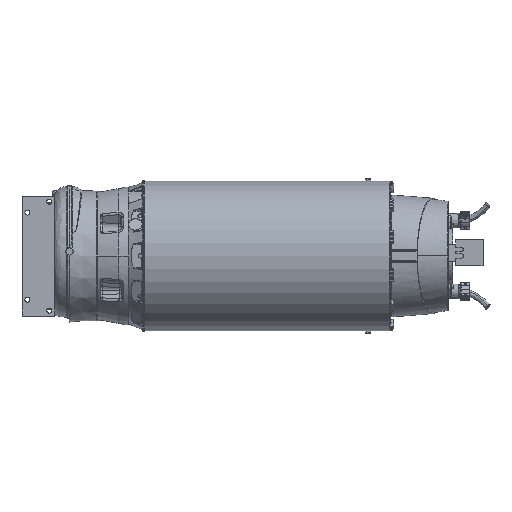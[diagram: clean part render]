
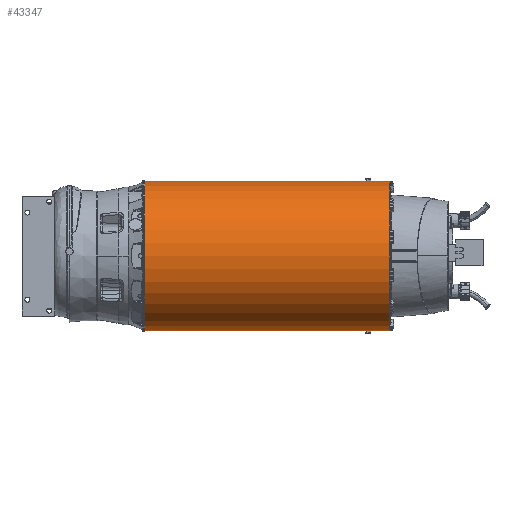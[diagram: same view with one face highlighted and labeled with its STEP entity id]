
A CAD part, front view. The second image highlights one B-rep face of the part: STEP entity #43347.
In plain terms, the highlighted cylindrical face has radius 344 mm (diameter 688 mm), a partial arc.
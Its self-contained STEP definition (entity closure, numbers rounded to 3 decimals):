
#2538 = LINE ( 'NONE', #114402, #78367 ) ;
#2949 = CARTESIAN_POINT ( 'NONE',  ( 994.03, 0., 344. ) ) ;
#3687 = CARTESIAN_POINT ( 'NONE',  ( 1015.97, 0., 344. ) ) ;
#4486 = EDGE_CURVE ( 'NONE', #201967, #83995, #199263, .T. ) ;
#6627 = EDGE_CURVE ( 'NONE', #49588, #184138, #182327, .T. ) ;
#9585 = CARTESIAN_POINT ( 'NONE',  ( 1012.313, -6.334, -343.956 ) ) ;
#10669 = CARTESIAN_POINT ( 'NONE',  ( 1105., 0., 344. ) ) ;
#14273 = VERTEX_POINT ( 'NONE', #173558 ) ;
#14368 = CARTESIAN_POINT ( 'NONE',  ( 1014.141, -3.167, 344. ) ) ;
#15679 = DIRECTION ( 'NONE',  ( 0., 0., -1. ) ) ;
#15725 = VECTOR ( 'NONE', #160340, 1000. ) ;
#23230 = CARTESIAN_POINT ( 'NONE',  ( 1010.485, -9.5, 343.869 ) ) ;
#25013 = CARTESIAN_POINT ( 'NONE',  ( 994.03, 0., 344. ) ) ;
#26034 = DIRECTION ( 'NONE',  ( 1., 0., 0. ) ) ;
#26634 = CARTESIAN_POINT ( 'NONE',  ( 1105., 0., 0. ) ) ;
#32728 = DIRECTION ( 'NONE',  ( -1., 0., 0. ) ) ;
#39420 = ORIENTED_EDGE ( 'NONE', *, *, #176073, .F. ) ;
#42896 = DIRECTION ( 'NONE',  ( 0., 0., -1. ) ) ;
#43347 = ADVANCED_FACE ( 'NONE', ( #66203 ), #45318, .T. ) ;
#45318 = CYLINDRICAL_SURFACE ( 'NONE', #73080, 344. ) ;
#45573 = CARTESIAN_POINT ( 'NONE',  ( 994.03, 0., -344. ) ) ;
#46657 = ORIENTED_EDGE ( 'NONE', *, *, #104401, .F. ) ;
#47456 = DIRECTION ( 'NONE',  ( 1., 0., 0. ) ) ;
#49588 = VERTEX_POINT ( 'NONE', #51756 ) ;
#51756 = CARTESIAN_POINT ( 'NONE',  ( 1010.485, -9.5, -343.869 ) ) ;
#56660 = ORIENTED_EDGE ( 'NONE', *, *, #58905, .F. ) ;
#58764 = VERTEX_POINT ( 'NONE', #150011 ) ;
#58905 = EDGE_CURVE ( 'NONE', #72088, #186518, #199481, .T. ) ;
#61069 = CARTESIAN_POINT ( 'NONE',  ( 999.515, -9.5, -343.869 ) ) ;
#61557 = VECTOR ( 'NONE', #32728, 1000. ) ;
#64021 = CARTESIAN_POINT ( 'NONE',  ( 1245.349, 0., -344. ) ) ;
#64242 = VECTOR ( 'NONE', #151528, 1000. ) ;
#65466 = CARTESIAN_POINT ( 'NONE',  ( 999.515, -9.5, 343.869 ) ) ;
#66203 = FACE_OUTER_BOUND ( 'NONE', #142765, .T. ) ;
#69552 = VERTEX_POINT ( 'NONE', #23230 ) ;
#69847 = DIRECTION ( 'NONE',  ( 0., -1., 0. ) ) ;
#70103 = DIRECTION ( 'NONE',  ( 1., 0., 0. ) ) ;
#70255 = CARTESIAN_POINT ( 'NONE',  ( -20., 0., 0. ) ) ;
#70582 = VERTEX_POINT ( 'NONE', #2949 ) ;
#72088 = VERTEX_POINT ( 'NONE', #3687 ) ;
#73080 = AXIS2_PLACEMENT_3D ( 'NONE', #110312, #47456, #15679 ) ;
#73372 = DIRECTION ( 'NONE',  ( -1., 0., 0. ) ) ;
#73863 = CARTESIAN_POINT ( 'NONE',  ( 1014.141, -3.167, -344. ) ) ;
#78367 = VECTOR ( 'NONE', #130627, 1000. ) ;
#78545 = VERTEX_POINT ( 'NONE', #65466 ) ;
#79345 = CARTESIAN_POINT ( 'NONE',  ( 1012.313, -6.334, 343.956 ) ) ;
#81500 = EDGE_CURVE ( 'NONE', #14273, #58764, #181838, .T. ) ;
#83995 = VERTEX_POINT ( 'NONE', #97873 ) ;
#84037 = AXIS2_PLACEMENT_3D ( 'NONE', #26634, #139425, #42896 ) ;
#96436 = ORIENTED_EDGE ( 'NONE', *, *, #170434, .T. ) ;
#97263 = EDGE_CURVE ( 'NONE', #184138, #161418, #137099, .T. ) ;
#97873 = CARTESIAN_POINT ( 'NONE',  ( -20., 0., -344. ) ) ;
#104401 = EDGE_CURVE ( 'NONE', #14273, #49588, #137562, .T. ) ;
#108432 = EDGE_CURVE ( 'NONE', #83995, #161418, #154816, .T. ) ;
#110312 = CARTESIAN_POINT ( 'NONE',  ( 1245.349, 0., 0. ) ) ;
#114402 = CARTESIAN_POINT ( 'NONE',  ( 1245.349, 0., 344. ) ) ;
#116700 = ORIENTED_EDGE ( 'NONE', *, *, #108432, .T. ) ;
#116706 = CARTESIAN_POINT ( 'NONE',  ( 1245.349, -9.5, -343.869 ) ) ;
#119794 = EDGE_CURVE ( 'NONE', #78545, #70582, #163059, .T. ) ;
#120950 = ORIENTED_EDGE ( 'NONE', *, *, #6627, .F. ) ;
#121715 = CARTESIAN_POINT ( 'NONE',  ( 995.859, -3.167, 344. ) ) ;
#121918 = EDGE_CURVE ( 'NONE', #69552, #78545, #184721, .T. ) ;
#122521 = CARTESIAN_POINT ( 'NONE',  ( 1010.485, -9.5, -343.869 ) ) ;
#127323 = CARTESIAN_POINT ( 'NONE',  ( 1015.97, 0., 344. ) ) ;
#130627 = DIRECTION ( 'NONE',  ( 1., 0., 0. ) ) ;
#130849 = AXIS2_PLACEMENT_3D ( 'NONE', #70255, #70103, #69847 ) ;
#131689 = CARTESIAN_POINT ( 'NONE',  ( -20., 0., 344. ) ) ;
#135601 = CARTESIAN_POINT ( 'NONE',  ( 1245.349, 0., -344. ) ) ;
#137099 =( BOUNDED_CURVE ( )  B_SPLINE_CURVE ( 3, ( #61069, #203032, #142024, #45573 ),
 .UNSPECIFIED., .F., .T. ) 
 B_SPLINE_CURVE_WITH_KNOTS ( ( 4, 4 ),
 ( 1.543, 1.571 ),
 .UNSPECIFIED. ) 
 CURVE ( )  GEOMETRIC_REPRESENTATION_ITEM ( )  RATIONAL_B_SPLINE_CURVE ( ( 1., 1., 1., 1. ) ) 
 REPRESENTATION_ITEM ( '' )  );
#137562 =( BOUNDED_CURVE ( )  B_SPLINE_CURVE ( 3, ( #186141, #73863, #9585, #122521 ),
 .UNSPECIFIED., .F., .T. ) 
 B_SPLINE_CURVE_WITH_KNOTS ( ( 4, 4 ),
 ( 1.571, 1.598 ),
 .UNSPECIFIED. ) 
 CURVE ( )  GEOMETRIC_REPRESENTATION_ITEM ( )  RATIONAL_B_SPLINE_CURVE ( ( 1., 1., 1., 1. ) ) 
 REPRESENTATION_ITEM ( '' )  );
#139425 = DIRECTION ( 'NONE',  ( 1., 0., 0. ) ) ;
#142024 = CARTESIAN_POINT ( 'NONE',  ( 995.859, -3.167, -344. ) ) ;
#142674 = ORIENTED_EDGE ( 'NONE', *, *, #97263, .F. ) ;
#142765 = EDGE_LOOP ( 'NONE', ( #39420, #188609, #116700, #142674, #120950, #46657, #184044, #188087, #56660, #96436, #148128, #194625 ) ) ;
#148128 = ORIENTED_EDGE ( 'NONE', *, *, #121918, .T. ) ;
#150011 = CARTESIAN_POINT ( 'NONE',  ( 1105., 0., -344. ) ) ;
#151528 = DIRECTION ( 'NONE',  ( 1., 0., 0. ) ) ;
#154816 = LINE ( 'NONE', #135601, #64242 ) ;
#160340 = DIRECTION ( 'NONE',  ( 1., 0., 0. ) ) ;
#161418 = VERTEX_POINT ( 'NONE', #186835 ) ;
#162540 = CARTESIAN_POINT ( 'NONE',  ( 999.515, -9.5, -343.869 ) ) ;
#163059 =( BOUNDED_CURVE ( )  B_SPLINE_CURVE ( 3, ( #185320, #169189, #121715, #25013 ),
 .UNSPECIFIED., .F., .T. ) 
 B_SPLINE_CURVE_WITH_KNOTS ( ( 4, 4 ),
 ( 1.543, 1.571 ),
 .UNSPECIFIED. ) 
 CURVE ( )  GEOMETRIC_REPRESENTATION_ITEM ( )  RATIONAL_B_SPLINE_CURVE ( ( 1., 1., 1., 1. ) ) 
 REPRESENTATION_ITEM ( '' )  );
#165745 = EDGE_CURVE ( 'NONE', #186518, #58764, #179976, .T. ) ;
#169189 = CARTESIAN_POINT ( 'NONE',  ( 997.687, -6.334, 343.956 ) ) ;
#169565 =( BOUNDED_CURVE ( )  B_SPLINE_CURVE ( 3, ( #127323, #14368, #79345, #191550 ),
 .UNSPECIFIED., .F., .F. ) 
 B_SPLINE_CURVE_WITH_KNOTS ( ( 4, 4 ),
 ( 1.571, 1.598 ),
 .UNSPECIFIED. ) 
 CURVE ( )  GEOMETRIC_REPRESENTATION_ITEM ( )  RATIONAL_B_SPLINE_CURVE ( ( 1., 1., 1., 1. ) ) 
 REPRESENTATION_ITEM ( '' )  );
#170434 = EDGE_CURVE ( 'NONE', #72088, #69552, #169565, .T. ) ;
#173558 = CARTESIAN_POINT ( 'NONE',  ( 1015.97, 0., -344. ) ) ;
#176073 = EDGE_CURVE ( 'NONE', #201967, #70582, #2538, .T. ) ;
#179976 = CIRCLE ( 'NONE', #84037, 344. ) ;
#180927 = VECTOR ( 'NONE', #73372, 1000. ) ;
#181838 = LINE ( 'NONE', #64021, #15725 ) ;
#182327 = LINE ( 'NONE', #116706, #180927 ) ;
#184044 = ORIENTED_EDGE ( 'NONE', *, *, #81500, .T. ) ;
#184138 = VERTEX_POINT ( 'NONE', #162540 ) ;
#184721 = LINE ( 'NONE', #194332, #61557 ) ;
#185320 = CARTESIAN_POINT ( 'NONE',  ( 999.515, -9.5, 343.869 ) ) ;
#186141 = CARTESIAN_POINT ( 'NONE',  ( 1015.97, 0., -344. ) ) ;
#186518 = VERTEX_POINT ( 'NONE', #10669 ) ;
#186835 = CARTESIAN_POINT ( 'NONE',  ( 994.03, 0., -344. ) ) ;
#188087 = ORIENTED_EDGE ( 'NONE', *, *, #165745, .F. ) ;
#188609 = ORIENTED_EDGE ( 'NONE', *, *, #4486, .T. ) ;
#191550 = CARTESIAN_POINT ( 'NONE',  ( 1010.485, -9.5, 343.869 ) ) ;
#194332 = CARTESIAN_POINT ( 'NONE',  ( 1245.349, -9.5, 343.869 ) ) ;
#194625 = ORIENTED_EDGE ( 'NONE', *, *, #119794, .T. ) ;
#199263 = CIRCLE ( 'NONE', #130849, 344. ) ;
#199481 = LINE ( 'NONE', #202512, #201707 ) ;
#201707 = VECTOR ( 'NONE', #26034, 1000. ) ;
#201967 = VERTEX_POINT ( 'NONE', #131689 ) ;
#202512 = CARTESIAN_POINT ( 'NONE',  ( 1245.349, 0., 344. ) ) ;
#203032 = CARTESIAN_POINT ( 'NONE',  ( 997.687, -6.334, -343.956 ) ) ;
